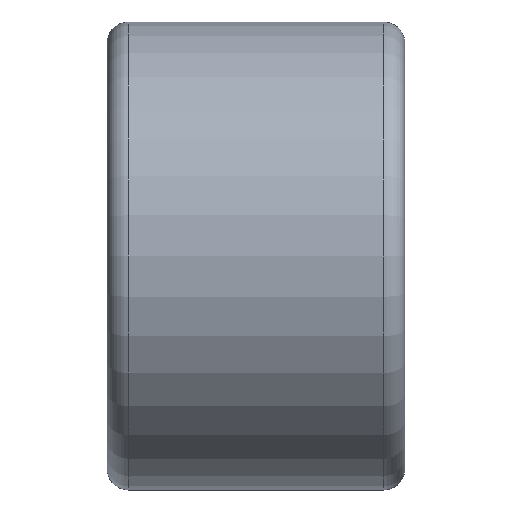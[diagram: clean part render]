
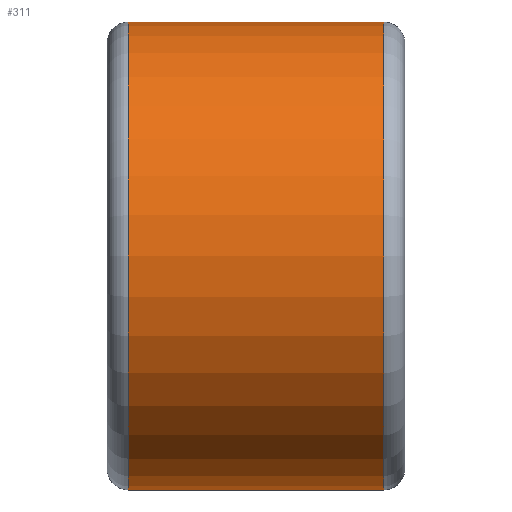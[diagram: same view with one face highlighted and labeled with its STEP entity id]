
A CAD part, front view. The second image highlights one B-rep face of the part: STEP entity #311.
In plain terms, the highlighted cylindrical face has radius 11 mm (diameter 22 mm), a full revolution.
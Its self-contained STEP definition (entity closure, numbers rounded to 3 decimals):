
#148=CYLINDRICAL_SURFACE('',#335,11.);
#156=FACE_BOUND('',#192,.T.);
#172=FACE_OUTER_BOUND('',#191,.T.);
#191=EDGE_LOOP('',(#276));
#192=EDGE_LOOP('',(#277));
#224=CIRCLE('',#334,11.);
#225=CIRCLE('',#336,11.);
#241=VERTEX_POINT('',#539);
#242=VERTEX_POINT('',#542);
#258=EDGE_CURVE('',#241,#241,#224,.T.);
#259=EDGE_CURVE('',#242,#242,#225,.T.);
#276=ORIENTED_EDGE('',*,*,#259,.F.);
#277=ORIENTED_EDGE('',*,*,#258,.F.);
#311=ADVANCED_FACE('',(#172,#156),#148,.T.);
#334=AXIS2_PLACEMENT_3D('',#540,#405,#406);
#335=AXIS2_PLACEMENT_3D('',#541,#407,#408);
#336=AXIS2_PLACEMENT_3D('',#543,#409,#410);
#405=DIRECTION('center_axis',(-1.,0.,0.));
#406=DIRECTION('ref_axis',(0.,-1.,0.));
#407=DIRECTION('center_axis',(1.,0.,0.));
#408=DIRECTION('ref_axis',(0.,1.,0.));
#409=DIRECTION('center_axis',(1.,0.,0.));
#410=DIRECTION('ref_axis',(0.,-1.,0.));
#539=CARTESIAN_POINT('',(-6.,11.,0.));
#540=CARTESIAN_POINT('Origin',(-6.,0.,0.));
#541=CARTESIAN_POINT('Origin',(0.,0.,
0.));
#542=CARTESIAN_POINT('',(6.,11.,0.));
#543=CARTESIAN_POINT('Origin',(6.,0.,0.));
